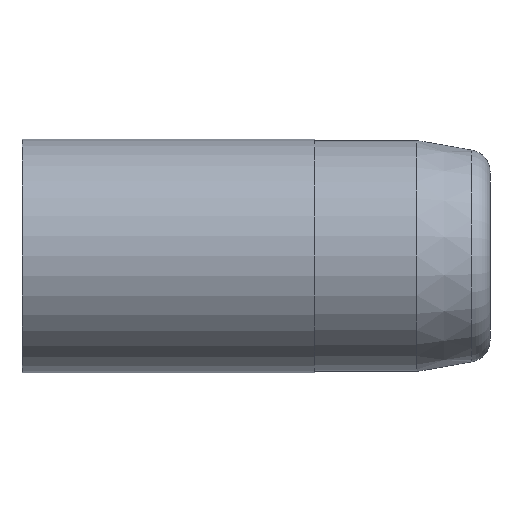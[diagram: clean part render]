
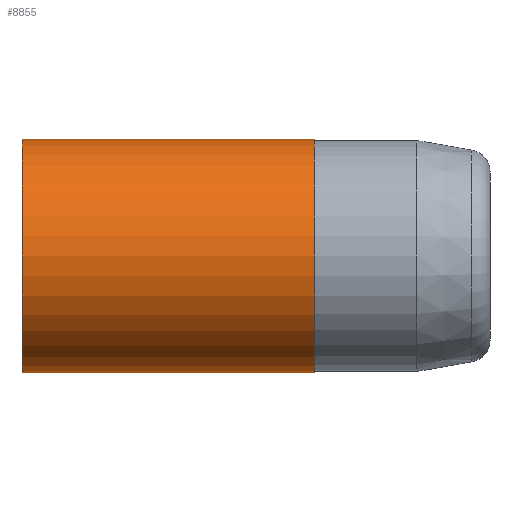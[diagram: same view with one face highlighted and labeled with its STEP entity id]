
A CAD part, left-side view. The second image highlights one B-rep face of the part: STEP entity #8855.
In plain terms, the highlighted cylindrical face has radius 4 mm (diameter 8 mm), a partial arc.
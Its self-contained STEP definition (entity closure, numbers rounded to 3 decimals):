
#756 = ORIENTED_EDGE ( 'NONE', *, *, #10031, .F. ) ;
#797 = CARTESIAN_POINT ( 'NONE',  ( 0., 0., -4. ) ) ;
#2467 = DIRECTION ( 'NONE',  ( 0., 1., 0. ) ) ;
#2917 = ORIENTED_EDGE ( 'NONE', *, *, #7151, .F. ) ;
#3273 = DIRECTION ( 'NONE',  ( 0., 0., 1. ) ) ;
#3606 = EDGE_CURVE ( 'NONE', #6317, #13279, #9174, .T. ) ;
#3689 = DIRECTION ( 'NONE',  ( 0., 0., 1. ) ) ;
#3758 = DIRECTION ( 'NONE',  ( 0., 1., 0. ) ) ;
#3965 = LINE ( 'NONE', #13905, #13731 ) ;
#4207 = EDGE_CURVE ( 'NONE', #13279, #9449, #3965, .T. ) ;
#4990 = EDGE_LOOP ( 'NONE', ( #756, #8455, #6006, #2917 ) ) ;
#5240 = LINE ( 'NONE', #10550, #9755 ) ;
#5415 = CARTESIAN_POINT ( 'NONE',  ( 0., -10., 0. ) ) ;
#5570 = CARTESIAN_POINT ( 'NONE',  ( 0., -10., 4. ) ) ;
#6006 = ORIENTED_EDGE ( 'NONE', *, *, #4207, .T. ) ;
#6246 = AXIS2_PLACEMENT_3D ( 'NONE', #5415, #13008, #3273 ) ;
#6317 = VERTEX_POINT ( 'NONE', #13607 ) ;
#7151 = EDGE_CURVE ( 'NONE', #7648, #9449, #10826, .T. ) ;
#7648 = VERTEX_POINT ( 'NONE', #797 ) ;
#8455 = ORIENTED_EDGE ( 'NONE', *, *, #3606, .T. ) ;
#8855 = ADVANCED_FACE ( 'NONE', ( #11065 ), #11352, .T. ) ;
#8920 = DIRECTION ( 'NONE',  ( 0., 0., 1. ) ) ;
#9069 = CARTESIAN_POINT ( 'NONE',  ( 0., 0., 0. ) ) ;
#9174 = CIRCLE ( 'NONE', #6246, 4. ) ;
#9449 = VERTEX_POINT ( 'NONE', #12824 ) ;
#9755 = VECTOR ( 'NONE', #11763, 1000. ) ;
#10031 = EDGE_CURVE ( 'NONE', #6317, #7648, #5240, .T. ) ;
#10550 = CARTESIAN_POINT ( 'NONE',  ( 0., 0., -4. ) ) ;
#10826 = CIRCLE ( 'NONE', #12655, 4. ) ;
#11065 = FACE_OUTER_BOUND ( 'NONE', #4990, .T. ) ;
#11352 = CYLINDRICAL_SURFACE ( 'NONE', #11613, 4. ) ;
#11497 = DIRECTION ( 'NONE',  ( 0., 1., 0. ) ) ;
#11613 = AXIS2_PLACEMENT_3D ( 'NONE', #9069, #3758, #3689 ) ;
#11763 = DIRECTION ( 'NONE',  ( 0., 1., 0. ) ) ;
#12655 = AXIS2_PLACEMENT_3D ( 'NONE', #13193, #2467, #8920 ) ;
#12824 = CARTESIAN_POINT ( 'NONE',  ( 0., 0., 4. ) ) ;
#13008 = DIRECTION ( 'NONE',  ( 0., 1., 0. ) ) ;
#13193 = CARTESIAN_POINT ( 'NONE',  ( 0., 0., 0. ) ) ;
#13279 = VERTEX_POINT ( 'NONE', #5570 ) ;
#13607 = CARTESIAN_POINT ( 'NONE',  ( 0., -10., -4. ) ) ;
#13731 = VECTOR ( 'NONE', #11497, 1000. ) ;
#13905 = CARTESIAN_POINT ( 'NONE',  ( 0., 0., 4. ) ) ;
